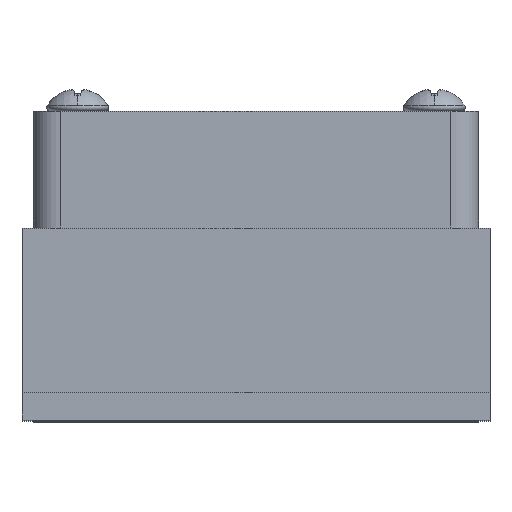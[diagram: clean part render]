
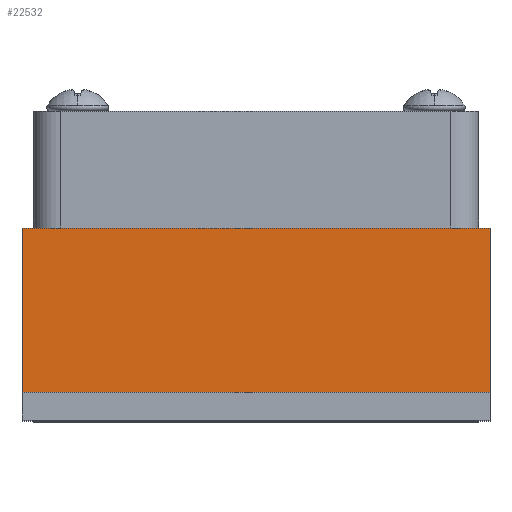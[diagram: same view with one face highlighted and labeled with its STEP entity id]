
A CAD part, top view. The second image highlights one B-rep face of the part: STEP entity #22532.
In plain terms, the highlighted planar face has unit normal (0, 0, 1).
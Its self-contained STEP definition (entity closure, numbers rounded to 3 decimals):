
#686 = DIRECTION ( 'NONE',  ( 1., 0., 0. ) ) ;
#969 = EDGE_LOOP ( 'NONE', ( #15742, #36272, #26492, #1355 ) ) ;
#1355 = ORIENTED_EDGE ( 'NONE', *, *, #30085, .T. ) ;
#2149 = LINE ( 'NONE', #13031, #17392 ) ;
#4924 = VERTEX_POINT ( 'NONE', #44010 ) ;
#8624 = CARTESIAN_POINT ( 'NONE',  ( 38.269, 0., 20.218 ) ) ;
#8774 = EDGE_CURVE ( 'NONE', #25346, #4924, #2149, .T. ) ;
#10011 = EDGE_CURVE ( 'NONE', #11880, #4924, #15817, .T. ) ;
#10832 = CARTESIAN_POINT ( 'NONE',  ( 38.269, 17.25, 20.218 ) ) ;
#11880 = VERTEX_POINT ( 'NONE', #27875 ) ;
#13031 = CARTESIAN_POINT ( 'NONE',  ( 0., 2.5, 20.218 ) ) ;
#13245 = CARTESIAN_POINT ( 'NONE',  ( -21., 0., 20.218 ) ) ;
#15185 = AXIS2_PLACEMENT_3D ( 'NONE', #8624, #33816, #686 ) ;
#15621 = FACE_OUTER_BOUND ( 'NONE', #969, .T. ) ;
#15742 = ORIENTED_EDGE ( 'NONE', *, *, #18438, .F. ) ;
#15817 = LINE ( 'NONE', #30598, #18913 ) ;
#16867 = DIRECTION ( 'NONE',  ( 1., 0., 0. ) ) ;
#17392 = VECTOR ( 'NONE', #16867, 1000. ) ;
#18438 = EDGE_CURVE ( 'NONE', #25346, #45147, #46442, .T. ) ;
#18818 = DIRECTION ( 'NONE',  ( -1., 0., 0. ) ) ;
#18913 = VECTOR ( 'NONE', #38069, 1000. ) ;
#19750 = PLANE ( 'NONE',  #15185 ) ;
#20733 = DIRECTION ( 'NONE',  ( 0., 1., 0. ) ) ;
#21746 = LINE ( 'NONE', #10832, #30168 ) ;
#22532 = ADVANCED_FACE ( 'NONE', ( #15621 ), #19750, .T. ) ;
#25346 = VERTEX_POINT ( 'NONE', #35378 ) ;
#26492 = ORIENTED_EDGE ( 'NONE', *, *, #10011, .F. ) ;
#27875 = CARTESIAN_POINT ( 'NONE',  ( 21., 17.25, 20.218 ) ) ;
#28844 = VECTOR ( 'NONE', #20733, 1000. ) ;
#30085 = EDGE_CURVE ( 'NONE', #11880, #45147, #21746, .T. ) ;
#30168 = VECTOR ( 'NONE', #18818, 1000. ) ;
#30598 = CARTESIAN_POINT ( 'NONE',  ( 21., 0., 20.218 ) ) ;
#33816 = DIRECTION ( 'NONE',  ( 0., 0., 1. ) ) ;
#35378 = CARTESIAN_POINT ( 'NONE',  ( -21., 2.5, 20.218 ) ) ;
#36272 = ORIENTED_EDGE ( 'NONE', *, *, #8774, .T. ) ;
#38069 = DIRECTION ( 'NONE',  ( 0., -1., 0. ) ) ;
#44010 = CARTESIAN_POINT ( 'NONE',  ( 21., 2.5, 20.218 ) ) ;
#45147 = VERTEX_POINT ( 'NONE', #45439 ) ;
#45439 = CARTESIAN_POINT ( 'NONE',  ( -21., 17.25, 20.218 ) ) ;
#46442 = LINE ( 'NONE', #13245, #28844 ) ;
